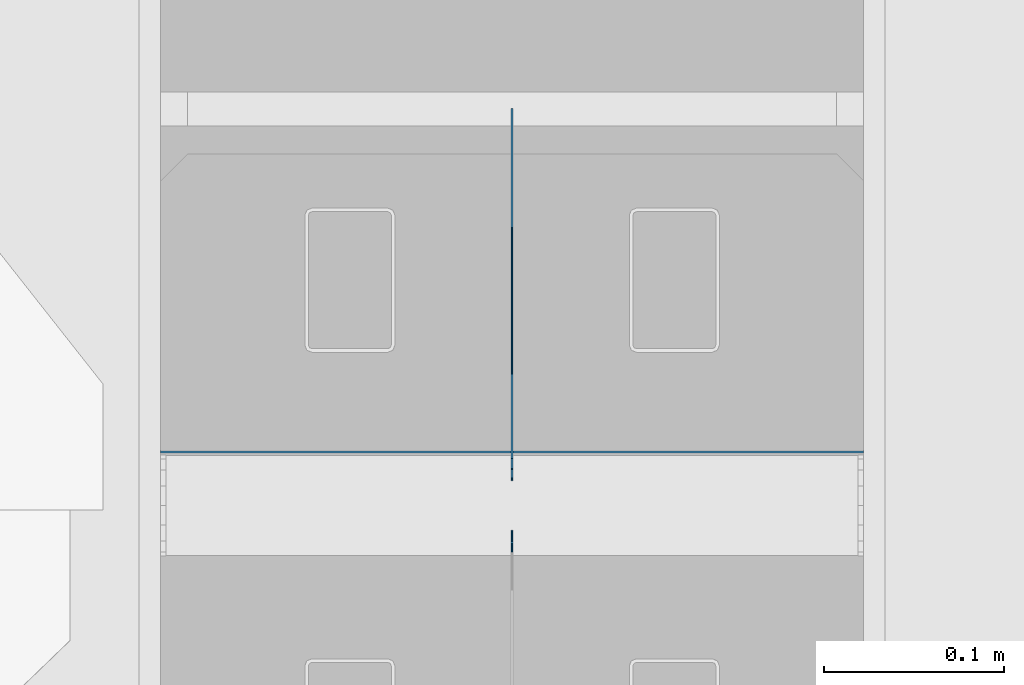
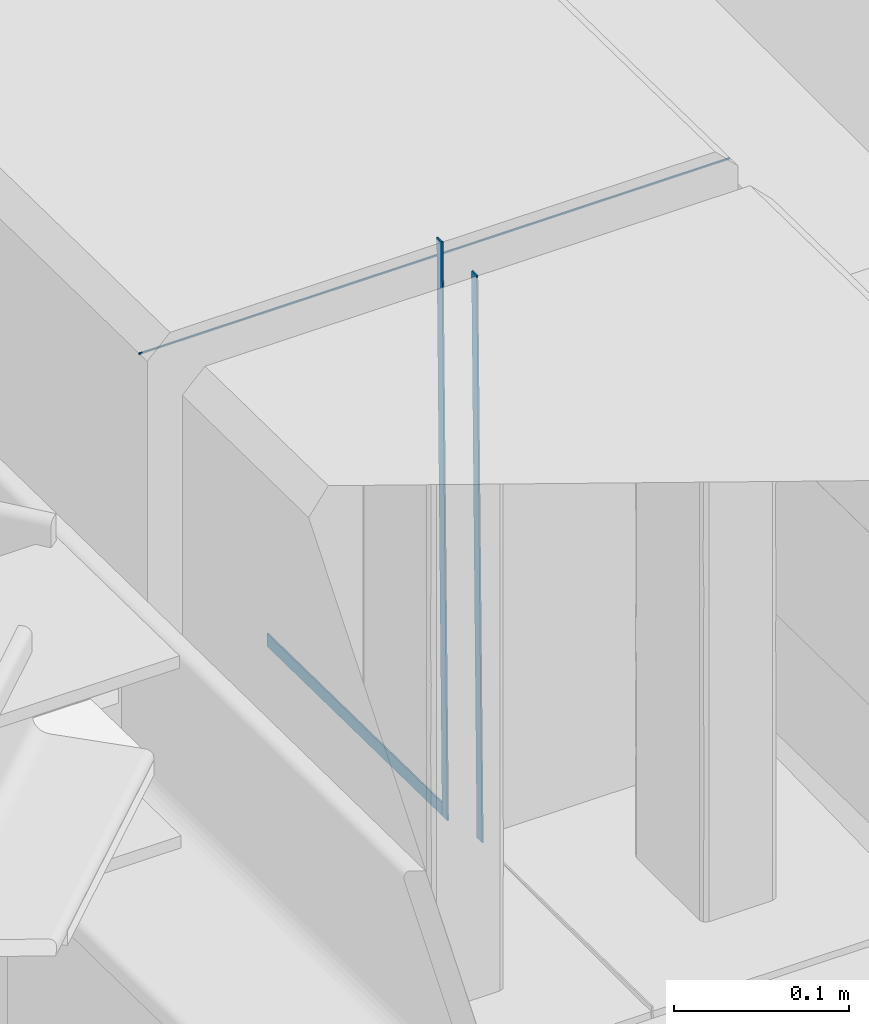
# One storey, part 23 of 186: 4 beams.
"""IFC4X3_ADD2 building model written with IfcOpenShell, lengths in millimetres."""

from ifc_helpers import new_model, si_unit, direction, frame, frame_2d, origin_with_axes, place, context, subcontext, project, spatial, rectangle, extrude, material, element, save


model = new_model("IFC4X3_ADD2")

# Units and contexts
model_context = context("Model", 3, precision=1e-05, world=origin_with_axes(), true_north=direction((0.0, 1.0)))
body_context = subcontext(model_context, "Body", "Model", "MODEL_VIEW")
ifc_project = project(units=[si_unit("LENGTHUNIT", "METRE", prefix="MILLI"), si_unit("AREAUNIT", "SQUARE_METRE"), si_unit("VOLUMEUNIT", "CUBIC_METRE"), si_unit("PLANEANGLEUNIT", "RADIAN"), si_unit("TIMEUNIT", "SECOND"), si_unit("MASSUNIT", "GRAM")], contexts=[model_context])

# Site, building, storey
site_placement = place(None, origin_with_axes())
site = spatial("IfcSite", under=ifc_project, at=site_placement, Name="Site", CompositionType="ELEMENT")
building_placement = place(site_placement, origin_with_axes())
building = spatial("IfcBuilding", under=site, at=building_placement, Name="IFC Building Story")
storey_placement = place(building_placement, frame((0.0, 0.0, 4370.0), z_axis=(0.0, 0.0, 1.0), x_axis=(1.0, 0.0, 0.0)))
storey = spatial("IfcBuildingStorey", under=building, at=storey_placement, Name="ETAGE 10 (1)", Elevation=4370.0)

# Beams
ifc_material_1 = material(Name="STEEL/Accessory_invisible 261")
beam_1_placement = place(storey_placement, frame((39966.6890204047, -8054.861465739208, 3078.526799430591), z_axis=(-1.0, 0.0, 0.0), x_axis=(0.0, 0.01548045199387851, 0.999880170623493)))
element("IfcBeam", 1, at=beam_1_placement, inside=storey, material=ifc_material_1, Name="BEK4", ObjectType="6*1", context=body_context, shape_type="SweptSolid", body=[
    extrude(rectangle(XDim=392.000000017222, YDim=6.0, at=frame_2d((0.0, 5.95523630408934e-12), x_axis=(1.0, 0.0))), origin_with_axes(), (0.0, 0.0, 1.0), 1.0),
])
beam_2_placement = place(storey_placement, frame((39965.6890210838, -7915.0402854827, 2876.72786613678), z_axis=(1.0, 0.0, 0.0), x_axis=(0.0, -0.01549575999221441, -0.9998799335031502)))
element("IfcBeam", 2, at=beam_2_placement, inside=storey, material=ifc_material_1, Name="BEK4", ObjectType="9*1 2", context=body_context, shape_type="SweptSolid", body=[
    extrude(rectangle(XDim=9.0, YDim=200.223921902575, at=frame_2d((0.0, 5.95523630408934e-12), x_axis=(1.0, 0.0))), origin_with_axes(), (0.0, 0.0, 1.0), 1.0),
])
beam_3_placement = place(storey_placement, frame((39966.6890210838, -8015.109471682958, 3073.84117594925), z_axis=(-1.0, 0.0, 0.0), x_axis=(0.0, 0.01549575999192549, 0.9998799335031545)))
element("IfcBeam", 3, at=beam_3_placement, inside=storey, material=ifc_material_1, Name="BEK4", ObjectType="6*1 9", context=body_context, shape_type="SweptSolid", body=[
    extrude(rectangle(XDim=400.077995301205, YDim=5.99999999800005, at=frame_2d((0.0, 5.95523630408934e-12), x_axis=(1.0, 0.0))), origin_with_axes(), (0.0, 0.0, 1.0), 1.0),
])
ifc_material_2 = material(Name="STEEL/Accessory_invisible")
beam_4_placement = place(storey_placement, frame((40161.0890210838, -8005.251460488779, 3258.249560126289), z_axis=(-1.0, 0.0, 0.0), x_axis=(0.0, 0.9999999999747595, -7.104999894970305e-06)))
element("IfcBeam", 4, at=beam_4_placement, inside=storey, material=ifc_material_2, Name="ZW3", ObjectType="1*1 3", context=body_context, shape_type="SweptSolid", body=[
    extrude(rectangle(XDim=0.9999999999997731, YDim=0.9999999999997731, at=frame_2d((0.0, 5.95523630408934e-12), x_axis=(1.0, 0.0))), origin_with_axes(), (0.0, 0.0, 1.0), 389.8999999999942),
])

save(model, "model.ifc")
